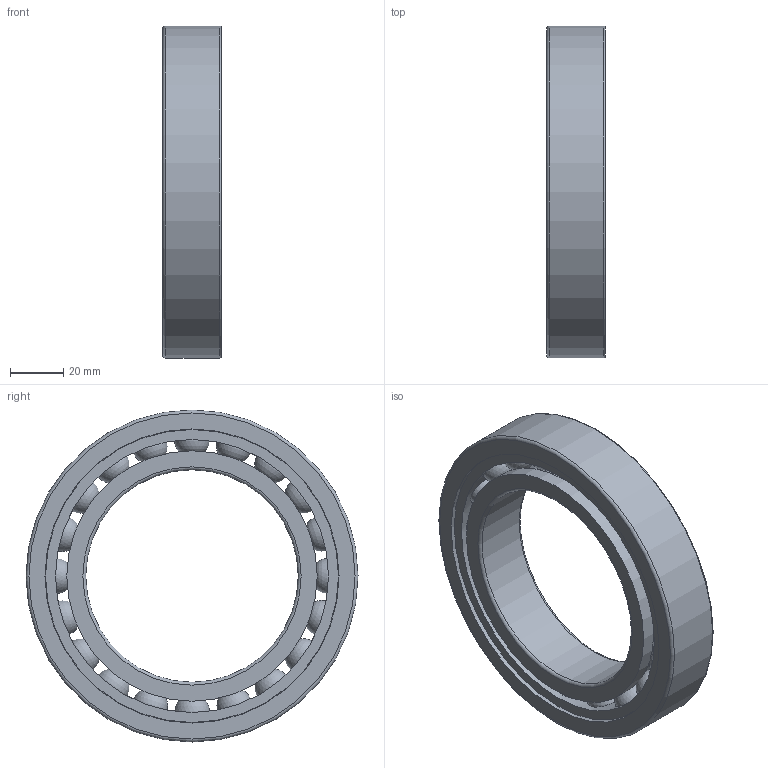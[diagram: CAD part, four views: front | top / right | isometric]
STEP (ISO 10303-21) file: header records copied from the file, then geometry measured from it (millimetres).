
FILE_DESCRIPTION(/* description */ (''),/* implementation_level */ '2;1');
FILE_NAME(/* name */ 'SM_6016_TA.step',/* time_stamp */ '2013-03-11T11:34:55+01:00',/* author */ ('Marian'),/* organization */ ('GMN'),/* preprocessor_version */ 'ST-DEVELOPER v11',/* originating_system */ 'SIEMENS UGS NX 6.0',/* authorisation */ '');
FILE_SCHEMA (('CONFIG_CONTROL_DESIGN'));
Length unit declared in the file: millimetre
Products named in the file (1): SM_6016_TA
Bounding box: 22 x 125 x 125 mm (x, y, z)
Volume: 119103.5 mm3; surface area: 60947.2 mm2
Topology: 23 solids, 23 shells, 60 faces, 158 edges, 102 vertices
Faces by surface type: cylinder 27, sphere 20, torus 6, plane 6, cone 1
Full cylindrical faces by diameter (mm): 13.694 x20, 80 x1, 94.3 x2, 102.774 x1, 110.3 x1, 110.7 x1, 125 x1
Entity records: 1978 total; most frequent: CARTESIAN_POINT 881, DIRECTION 162, FACE_BOUND 140, EDGE_LOOP 120, ORIENTED_EDGE 120, AXIS2_PLACEMENT_3D 81, VERTEX_POINT 80, EDGE_CURVE 60
